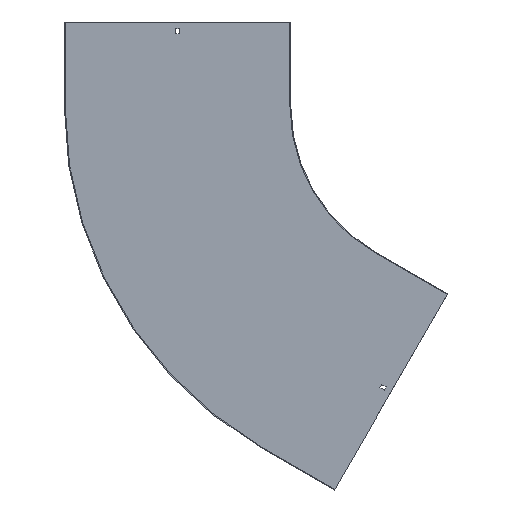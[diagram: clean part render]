
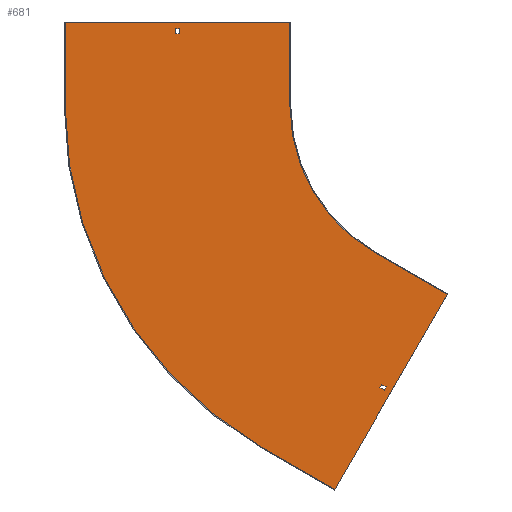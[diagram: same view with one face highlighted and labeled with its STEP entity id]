
A CAD part, front view. The second image highlights one B-rep face of the part: STEP entity #681.
In plain terms, the highlighted planar face has unit normal (0, -1, 0).
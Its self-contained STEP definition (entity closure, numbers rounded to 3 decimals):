
#8 = ORIENTED_EDGE ( 'NONE', *, *, #600, .F. ) ;
#9 = CARTESIAN_POINT ( 'NONE',  ( -248.375, -1.5, -430.198 ) ) ;
#12 = VECTOR ( 'NONE', #505, 1000. ) ;
#13 = DIRECTION ( 'NONE',  ( -0.866, 0., 0.5 ) ) ;
#22 = DIRECTION ( 'NONE',  ( 0., 0., -1. ) ) ;
#23 = CARTESIAN_POINT ( 'NONE',  ( -139.908, -1.5, -500.327 ) ) ;
#27 = DIRECTION ( 'NONE',  ( 0., -1., 0. ) ) ;
#28 = DIRECTION ( 'NONE',  ( -0.5, 0., -0.866 ) ) ;
#30 = VERTEX_POINT ( 'NONE', #573 ) ;
#34 = VECTOR ( 'NONE', #346, 1000. ) ;
#45 = LINE ( 'NONE', #104, #529 ) ;
#74 = AXIS2_PLACEMENT_3D ( 'NONE', #613, #27, #605 ) ;
#75 = DIRECTION ( 'NONE',  ( -1., 0., 0. ) ) ;
#76 = DIRECTION ( 'NONE',  ( 0., 1., 0. ) ) ;
#79 = VECTOR ( 'NONE', #13, 1000. ) ;
#80 = CARTESIAN_POINT ( 'NONE',  ( -19.346, -1.5, -333.509 ) ) ;
#84 = FACE_BOUND ( 'NONE', #814, .T. ) ;
#88 = CARTESIAN_POINT ( 'NONE',  ( -128.863, -1.5, -499.198 ) ) ;
#93 = CARTESIAN_POINT ( 'NONE',  ( 0., -1.5, 138. ) ) ;
#94 = DIRECTION ( 'NONE',  ( 0., 0., -1. ) ) ;
#103 = LINE ( 'NONE', #606, #113 ) ;
#104 = CARTESIAN_POINT ( 'NONE',  ( -251.625, -1.5, -435.827 ) ) ;
#113 = VECTOR ( 'NONE', #570, 1000. ) ;
#117 = VERTEX_POINT ( 'NONE', #487 ) ;
#121 = EDGE_CURVE ( 'NONE', #302, #720, #149, .T. ) ;
#122 = VECTOR ( 'NONE', #28, 1000. ) ;
#123 = ORIENTED_EDGE ( 'NONE', *, *, #399, .F. ) ;
#124 = EDGE_CURVE ( 'NONE', #683, #302, #336, .T. ) ;
#141 = CARTESIAN_POINT ( 'NONE',  ( -220.096, -1.5, -681.218 ) ) ;
#146 = CARTESIAN_POINT ( 'NONE',  ( -700., -1.5, 0. ) ) ;
#149 = LINE ( 'NONE', #471, #763 ) ;
#154 = ORIENTED_EDGE ( 'NONE', *, *, #265, .F. ) ;
#164 = PLANE ( 'NONE',  #74 ) ;
#171 = CIRCLE ( 'NONE', #288, 300. ) ;
#177 = CARTESIAN_POINT ( 'NONE',  ( -503.25, -1.5, 0. ) ) ;
#182 = ORIENTED_EDGE ( 'NONE', *, *, #196, .F. ) ;
#192 = EDGE_CURVE ( 'NONE', #764, #30, #558, .T. ) ;
#196 = EDGE_CURVE ( 'NONE', #247, #117, #543, .T. ) ;
#212 = DIRECTION ( 'NONE',  ( -0.5, 0., -0.866 ) ) ;
#232 = LINE ( 'NONE', #496, #623 ) ;
#238 = CARTESIAN_POINT ( 'NONE',  ( -20.096, -1.5, -334.808 ) ) ;
#245 = EDGE_CURVE ( 'NONE', #688, #365, #561, .T. ) ;
#247 = VERTEX_POINT ( 'NONE', #146 ) ;
#248 = DIRECTION ( 'NONE',  ( 0., 0., 1. ) ) ;
#254 = ORIENTED_EDGE ( 'NONE', *, *, #289, .F. ) ;
#255 = ORIENTED_EDGE ( 'NONE', *, *, #417, .F. ) ;
#260 = VECTOR ( 'NONE', #275, 1000. ) ;
#265 = EDGE_CURVE ( 'NONE', #307, #387, #734, .T. ) ;
#269 = CARTESIAN_POINT ( 'NONE',  ( -150., -1.5, -259.808 ) ) ;
#274 = CARTESIAN_POINT ( 'NONE',  ( -150., -1.5, -259.808 ) ) ;
#275 = DIRECTION ( 'NONE',  ( 0., 0., 1. ) ) ;
#280 = CARTESIAN_POINT ( 'NONE',  ( -496.75, -1.5, 129. ) ) ;
#281 = ORIENTED_EDGE ( 'NONE', *, *, #709, .F. ) ;
#288 = AXIS2_PLACEMENT_3D ( 'NONE', #580, #825, #431 ) ;
#289 = EDGE_CURVE ( 'NONE', #30, #624, #232, .T. ) ;
#291 = VECTOR ( 'NONE', #835, 1000. ) ;
#294 = ORIENTED_EDGE ( 'NONE', *, *, #121, .T. ) ;
#298 = CARTESIAN_POINT ( 'NONE',  ( -503.25, -1.5, 129. ) ) ;
#302 = VERTEX_POINT ( 'NONE', #280 ) ;
#307 = VERTEX_POINT ( 'NONE', #741 ) ;
#310 = EDGE_CURVE ( 'NONE', #356, #688, #406, .T. ) ;
#321 = ORIENTED_EDGE ( 'NONE', *, *, #776, .F. ) ;
#325 = AXIS2_PLACEMENT_3D ( 'NONE', #679, #76, #22 ) ;
#326 = CIRCLE ( 'NONE', #325, 700. ) ;
#336 = LINE ( 'NONE', #596, #646 ) ;
#339 = FACE_OUTER_BOUND ( 'NONE', #768, .T. ) ;
#346 = DIRECTION ( 'NONE',  ( 1., 0., 0. ) ) ;
#356 = VERTEX_POINT ( 'NONE', #238 ) ;
#363 = ORIENTED_EDGE ( 'NONE', *, *, #192, .F. ) ;
#365 = VERTEX_POINT ( 'NONE', #622 ) ;
#387 = VERTEX_POINT ( 'NONE', #637 ) ;
#399 = EDGE_CURVE ( 'NONE', #624, #655, #45, .T. ) ;
#403 = EDGE_CURVE ( 'NONE', #387, #456, #171, .T. ) ;
#406 = LINE ( 'NONE', #80, #122 ) ;
#416 = CARTESIAN_POINT ( 'NONE',  ( -496.75, -1.5, 138. ) ) ;
#417 = EDGE_CURVE ( 'NONE', #117, #307, #700, .T. ) ;
#422 = ORIENTED_EDGE ( 'NONE', *, *, #124, .T. ) ;
#424 = FACE_BOUND ( 'NONE', #841, .T. ) ;
#429 = EDGE_CURVE ( 'NONE', #640, #683, #840, .T. ) ;
#431 = DIRECTION ( 'NONE',  ( 0., 0., -1. ) ) ;
#445 = ORIENTED_EDGE ( 'NONE', *, *, #429, .T. ) ;
#456 = VERTEX_POINT ( 'NONE', #274 ) ;
#471 = CARTESIAN_POINT ( 'NONE',  ( 0., -1.5, 129. ) ) ;
#487 = CARTESIAN_POINT ( 'NONE',  ( -700., -1.5, 150. ) ) ;
#494 = CARTESIAN_POINT ( 'NONE',  ( -132.113, -1.5, -504.827 ) ) ;
#496 = CARTESIAN_POINT ( 'NONE',  ( 111.717, -1.5, -64.5 ) ) ;
#498 = ORIENTED_EDGE ( 'NONE', *, *, #403, .F. ) ;
#505 = DIRECTION ( 'NONE',  ( 1., 0., 0. ) ) ;
#511 = VECTOR ( 'NONE', #248, 1000. ) ;
#529 = VECTOR ( 'NONE', #632, 1000. ) ;
#537 = LINE ( 'NONE', #269, #849 ) ;
#543 = LINE ( 'NONE', #736, #260 ) ;
#546 = VECTOR ( 'NONE', #94, 1000. ) ;
#558 = LINE ( 'NONE', #9, #79 ) ;
#561 = LINE ( 'NONE', #141, #291 ) ;
#567 = CARTESIAN_POINT ( 'NONE',  ( -503.25, -1.5, 138. ) ) ;
#570 = DIRECTION ( 'NONE',  ( 0.5, 0., 0.866 ) ) ;
#571 = CARTESIAN_POINT ( 'NONE',  ( -701.5, -1.5, 150. ) ) ;
#573 = CARTESIAN_POINT ( 'NONE',  ( -136.658, -1.5, -494.698 ) ) ;
#580 = CARTESIAN_POINT ( 'NONE',  ( 0., -1.5, 0. ) ) ;
#596 = CARTESIAN_POINT ( 'NONE',  ( -496.75, -1.5, 0. ) ) ;
#600 = EDGE_CURVE ( 'NONE', #655, #764, #103, .T. ) ;
#605 = DIRECTION ( 'NONE',  ( 0., 0., -1. ) ) ;
#606 = CARTESIAN_POINT ( 'NONE',  ( 119.512, -1.5, -69. ) ) ;
#613 = CARTESIAN_POINT ( 'NONE',  ( 0., -1.5, 0. ) ) ;
#622 = CARTESIAN_POINT ( 'NONE',  ( -350., -1.5, -606.218 ) ) ;
#623 = VECTOR ( 'NONE', #212, 1000. ) ;
#624 = VERTEX_POINT ( 'NONE', #23 ) ;
#632 = DIRECTION ( 'NONE',  ( 0.866, 0., -0.5 ) ) ;
#637 = CARTESIAN_POINT ( 'NONE',  ( -300., -1.5, 0. ) ) ;
#640 = VERTEX_POINT ( 'NONE', #567 ) ;
#646 = VECTOR ( 'NONE', #809, 1000. ) ;
#655 = VERTEX_POINT ( 'NONE', #494 ) ;
#674 = CARTESIAN_POINT ( 'NONE',  ( -300., -1.5, 150. ) ) ;
#679 = CARTESIAN_POINT ( 'NONE',  ( 0., -1.5, 0. ) ) ;
#681 = ADVANCED_FACE ( 'NONE', ( #424, #339, #84 ), #164, .T. ) ;
#683 = VERTEX_POINT ( 'NONE', #416 ) ;
#684 = CARTESIAN_POINT ( 'NONE',  ( -220.096, -1.5, -681.218 ) ) ;
#688 = VERTEX_POINT ( 'NONE', #684 ) ;
#690 = LINE ( 'NONE', #177, #511 ) ;
#694 = ORIENTED_EDGE ( 'NONE', *, *, #718, .T. ) ;
#700 = LINE ( 'NONE', #571, #12 ) ;
#708 = ORIENTED_EDGE ( 'NONE', *, *, #245, .F. ) ;
#709 = EDGE_CURVE ( 'NONE', #365, #247, #326, .T. ) ;
#718 = EDGE_CURVE ( 'NONE', #720, #640, #690, .T. ) ;
#720 = VERTEX_POINT ( 'NONE', #298 ) ;
#734 = LINE ( 'NONE', #674, #546 ) ;
#736 = CARTESIAN_POINT ( 'NONE',  ( -700., -1.5, 0. ) ) ;
#741 = CARTESIAN_POINT ( 'NONE',  ( -300., -1.5, 150. ) ) ;
#752 = ORIENTED_EDGE ( 'NONE', *, *, #310, .F. ) ;
#763 = VECTOR ( 'NONE', #75, 1000. ) ;
#764 = VERTEX_POINT ( 'NONE', #88 ) ;
#768 = EDGE_LOOP ( 'NONE', ( #255, #182, #281, #708, #752, #321, #498, #154 ) ) ;
#776 = EDGE_CURVE ( 'NONE', #456, #356, #537, .T. ) ;
#794 = DIRECTION ( 'NONE',  ( 0.866, 0., -0.5 ) ) ;
#809 = DIRECTION ( 'NONE',  ( 0., 0., -1. ) ) ;
#814 = EDGE_LOOP ( 'NONE', ( #445, #422, #294, #694 ) ) ;
#825 = DIRECTION ( 'NONE',  ( 0., -1., 0. ) ) ;
#835 = DIRECTION ( 'NONE',  ( -0.866, 0., 0.5 ) ) ;
#840 = LINE ( 'NONE', #93, #34 ) ;
#841 = EDGE_LOOP ( 'NONE', ( #363, #8, #123, #254 ) ) ;
#849 = VECTOR ( 'NONE', #794, 1000. ) ;
